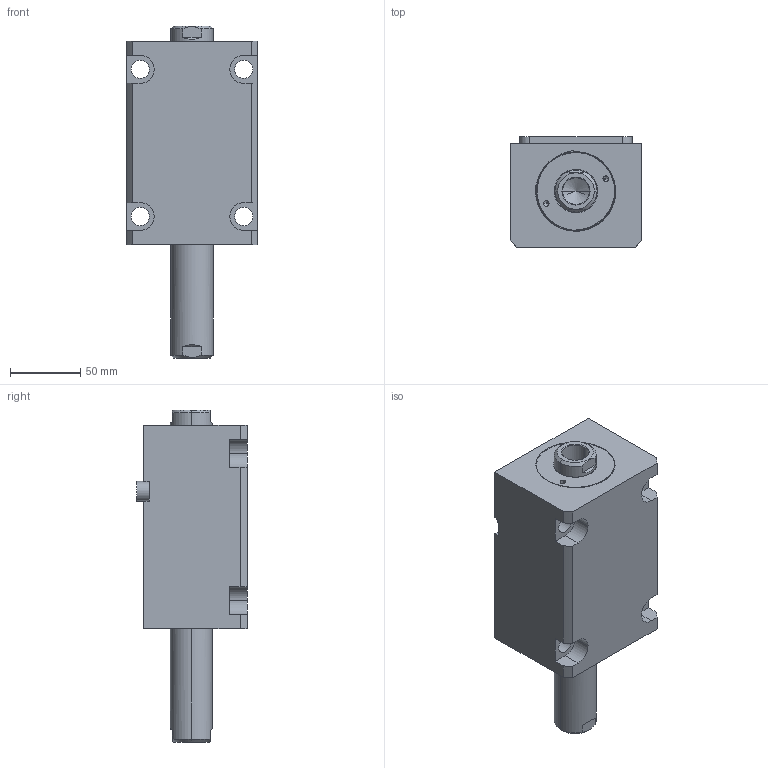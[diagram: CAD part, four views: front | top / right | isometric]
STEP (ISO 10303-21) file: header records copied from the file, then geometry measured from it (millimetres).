
FILE_DESCRIPTION (( 'STEP AP203' ), '1' );
FILE_NAME ('CHTB-LWM50-70N.STEP', '2018-05-22T07:26:51', ( '' ), ( '' ), 'SwSTEP 2.0', 'SolidWorks 2015', '' );
FILE_SCHEMA (( 'CONFIG_CONTROL_DESIGN' ));
Length unit declared in the file: millimetre
Products named in the file (4): 活塞杆LWM50-70N; CHTB-LWM50-70N; CHTM-SDMA50QG; 掛极LWM50-70N
Assembly tree (3 placements, depth 2):
  CHTB-LWM50-70N
    掛极LWM50-70N
    活塞杆LWM50-70N
    CHTM-SDMA50QG
Bounding box: 94 x 79 x 237 mm (x, y, z)
Volume: 913616.7 mm3; surface area: 141195.5 mm2
Topology: 3 solids, 3 shells, 213 faces, 571 edges, 374 vertices
Faces by surface type: cylinder 104, plane 57, cone 22, torus 16, bspline 14
Entity records: 11569 total; most frequent: CARTESIAN_POINT 6050, ORIENTED_EDGE 1126, DIRECTION 1011, EDGE_CURVE 563, AXIS2_PLACEMENT_3D 396, VERTEX_POINT 374, EDGE_LOOP 247, VECTOR 219
